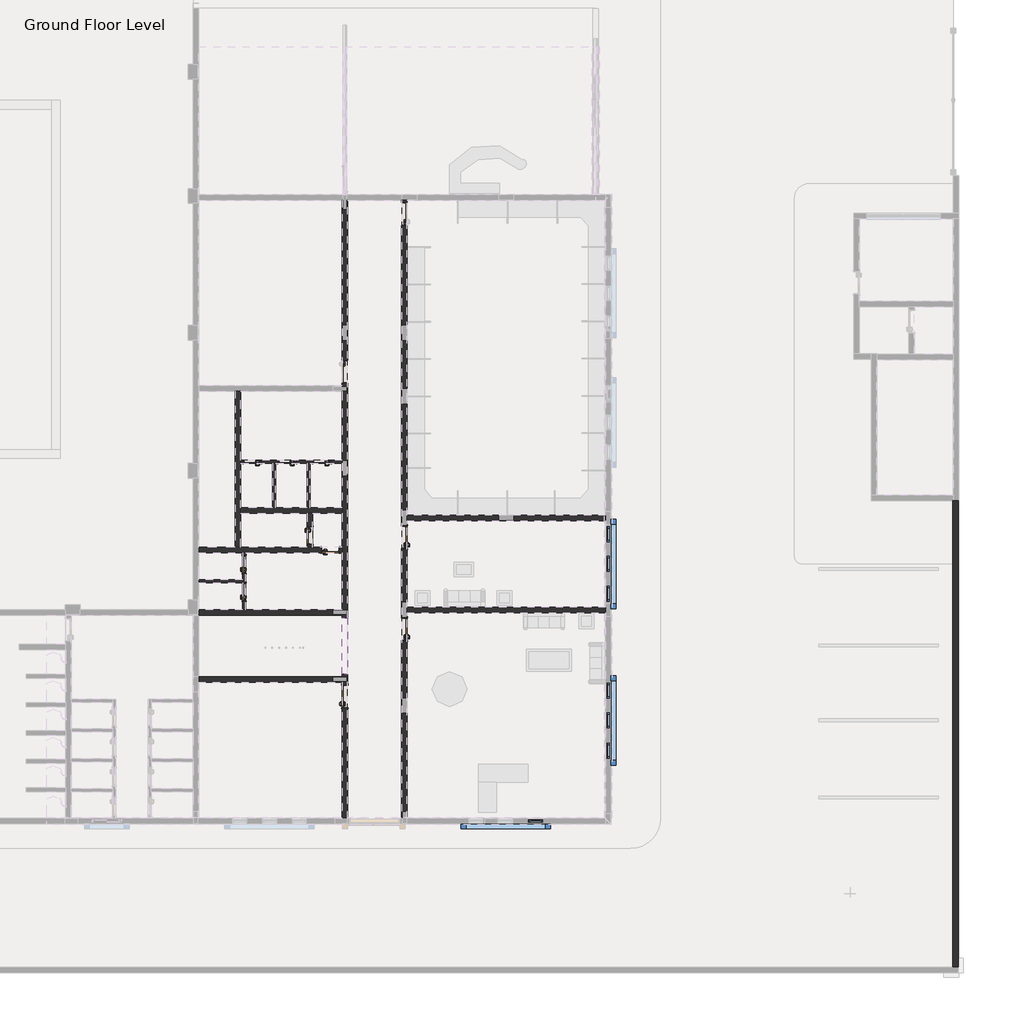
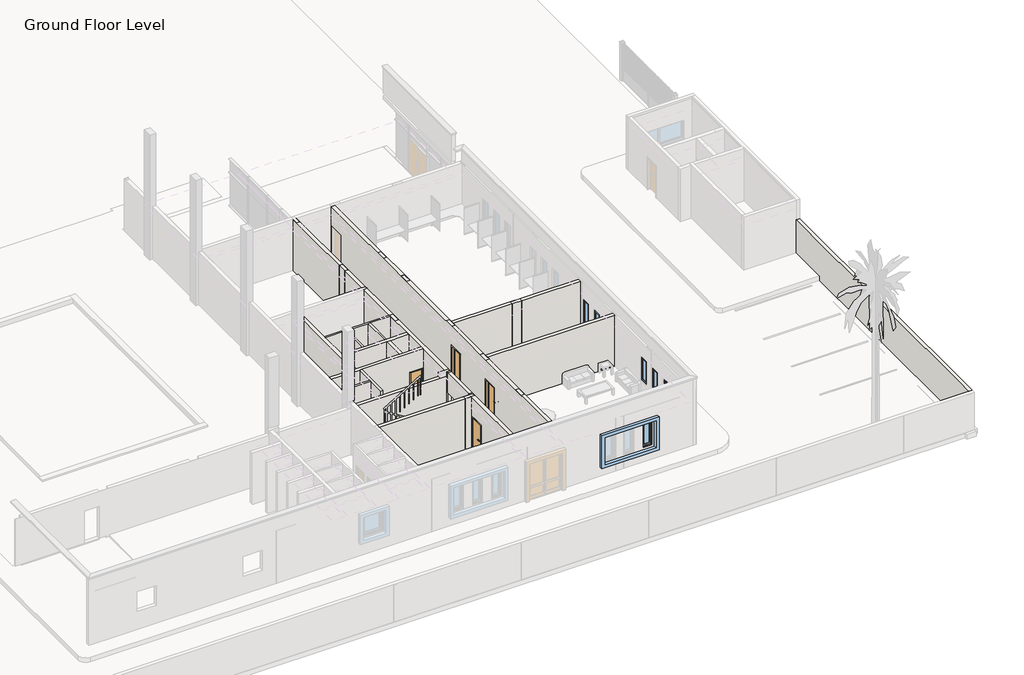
# One storey, part 4 of 23: 18 walls, 10 doors, 10 windows.
"""IFC4 building model written with IfcOpenShell, lengths in millimetres."""

from ifc_helpers import new_model, si_unit, frame, origin, place, context, project, spatial, polyline, outline, extrude, faceted_brep, transform, mapped, element, save
from components import int_single_flush_nz_700x_2100_d6161bae, int_single_flush_nz_700x_2100_87768231, int_single_flush_nz_900_x_2100_021ef152, int_single_flush_nz_900_x_2100_2a598139, window_batten_type_1_65f01d97, window_batten_type_1_102509b6, window_single_shutter_w3_b236610e

model = new_model("IFC4")

# Units and contexts
model_context = context("Model", 3, world=origin())
ifc_project = project(units=[si_unit("LENGTHUNIT", "METRE", prefix="MILLI")], contexts=[model_context])

# Site, building, storey
site = spatial("IfcSite", under=ifc_project)
building = spatial("IfcBuilding", under=site)
storey = spatial("IfcBuildingStorey", under=building, Name="Ground Floor Level", Elevation=900.0)

# Doors
placement = place(None, origin())
int_single_flush_nz_700x_2100_shape = int_single_flush_nz_700x_2100_d6161bae(model_context)
element("IfcDoor", 1, ObjectType="Int Single-Flush (NZ) : 700x 2100", at=placement, inside=storey, context=model_context, shape_type="MappedRepresentation", body=[
    mapped(int_single_flush_nz_700x_2100_shape, transform((1302.7672395, -30848.7846466, 1000.0), x_axis=(0.0, 1.0, 0.0), y_axis=(-1.0, 0.0, 0.0), z_axis=(0.0, 0.0, 1.0))),
])
element("IfcDoor", 2, ObjectType="Int Single-Flush (NZ) : 700x 2100", at=placement, inside=storey, context=model_context, shape_type="MappedRepresentation", body=[
    mapped(int_single_flush_nz_700x_2100_shape, transform((1302.7672395, -31958.7846466, 1000.0), x_axis=(0.0, 1.0, 0.0), y_axis=(-1.0, 0.0, 0.0), z_axis=(0.0, 0.0, 1.0))),
])
element("IfcDoor", 3, ObjectType="Int Single-Flush (NZ) : 700x 2100", at=placement, inside=storey, context=model_context, shape_type="MappedRepresentation", body=[
    mapped(int_single_flush_nz_700x_2100_shape, transform((1556.7672395, -26804.7846466, 1000.0), x_axis=(-1.0, 0.0, 0.0), y_axis=(0.0, -1.0, 0.0), z_axis=(0.0, 0.0, 1.0))),
])
element("IfcDoor", 4, ObjectType="Int Single-Flush (NZ) : 700x 2100", at=placement, inside=storey, context=model_context, shape_type="MappedRepresentation", body=[
    mapped(int_single_flush_nz_700x_2100_shape, transform((2956.7672395, -26804.7846466, 1000.0), x_axis=(-1.0, 0.0, 0.0), y_axis=(0.0, -1.0, 0.0), z_axis=(0.0, 0.0, 1.0))),
])
element("IfcDoor", 5, ObjectType="Int Single-Flush (NZ) : 700x 2100", at=placement, inside=storey, context=model_context, shape_type="MappedRepresentation", body=[
    mapped(int_single_flush_nz_700x_2100_shape, transform((4356.7672395, -26804.7846466, 1000.0), x_axis=(-1.0, 0.0, 0.0), y_axis=(0.0, -1.0, 0.0), z_axis=(0.0, 0.0, 1.0))),
])
int_single_flush_nz_700x_2100_2_shape = int_single_flush_nz_700x_2100_87768231(model_context)
element("IfcDoor", 6, ObjectType="Int Single-Flush (NZ) : 700x 2100", at=placement, inside=storey, context=model_context, shape_type="MappedRepresentation", body=[
    mapped(int_single_flush_nz_700x_2100_2_shape, transform((4848.7672394, -30344.7846466, 1000.0), x_axis=(1.0, 0.0, 0.0), y_axis=(0.0, 1.0, 0.0), z_axis=(0.0, 0.0, 1.0))),
])
element("IfcDoor", 7, ObjectType="Int Single-Flush (NZ) : 700x 2100", at=placement, inside=storey, context=model_context, shape_type="MappedRepresentation", body=[
    mapped(int_single_flush_nz_700x_2100_2_shape, transform((3952.7672395, -29840.7846466, 1000.0), x_axis=(0.0, -1.0, 0.0), y_axis=(1.0, 0.0, 0.0), z_axis=(0.0, 0.0, 1.0))),
])
int_single_flush_nz_900_x_2100_shape = int_single_flush_nz_900_x_2100_021ef152(model_context)
element("IfcDoor", 8, ObjectType="Int Single-Flush (NZ) : 900 x 2100", at=placement, inside=storey, context=model_context, shape_type="MappedRepresentation", body=[
    mapped(int_single_flush_nz_900_x_2100_shape, transform((5352.7672394, -36158.7846466, 1000.0), x_axis=(0.0, 1.0, 0.0), y_axis=(-1.0, 0.0, 0.0), z_axis=(0.0, 0.0, 1.0))),
])
int_single_flush_nz_900_x_2100_2_shape = int_single_flush_nz_900_x_2100_2a598139(model_context)
element("IfcDoor", 9, ObjectType="Int Single-Flush (NZ) : 900 x 2100", at=placement, inside=storey, context=model_context, shape_type="MappedRepresentation", body=[
    mapped(int_single_flush_nz_900_x_2100_2_shape, transform((7752.7672395, -29758.7846466, 1000.0), x_axis=(0.0, 1.0, 0.0), y_axis=(-1.0, 0.0, 0.0), z_axis=(0.0, 0.0, 1.0))),
])
element("IfcDoor", 10, ObjectType="Int Single-Flush (NZ) : 900 x 2100", at=placement, inside=storey, context=model_context, shape_type="MappedRepresentation", body=[
    mapped(int_single_flush_nz_900_x_2100_2_shape, transform((7752.7672395, -33458.7846466, 1000.0), x_axis=(0.0, 1.0, 0.0), y_axis=(-1.0, 0.0, 0.0), z_axis=(0.0, 0.0, 1.0))),
])

# Walls
element("IfcWall", 11, ObjectType="Exterior - Blockwork 200mm", at=placement, inside=storey, context=model_context, shape_type="SweptSolid", body=[
    extrude(outline(polyline([(29832.7672395, -47134.7846466), (29832.7672395, -28364.7846456), (30052.7672395, -28364.7846456), (30052.7672395, -47134.7846466), (29832.7672395, -47134.7846466)])), frame((0.0, 0.0, 600.0), z_axis=(0.0, 0.0, 1.0), x_axis=(1.0, 0.0, 0.0)), (0.0, 0.0, 1.0), 2500.0),
])
element("IfcWall", 12, ObjectType="Interior - Blockwork 200", at=placement, inside=storey, context=model_context, shape_type="Brep", body=[
    faceted_brep([(5242.7672394, -32954.7846466, 4400.0), (5242.7672394, -32954.7846466, 4100.0), (5242.7672394, -32954.7846466, 900.0), (5242.7672394, -32964.7846466, 900.0), (5242.7672394, -32964.7846466, 1000.0), (5242.7672394, -33074.7846466, 1000.0), (5242.7672394, -33074.7846466, 3100.0), (5242.7672394, -33074.7846466, 4400.0), (5242.7672394, -23754.7846466, 1000.0), (5242.7672394, -23754.7846466, 4400.0), (5242.7672394, -23744.7846466, 4400.0), (5242.7672394, -16264.7846466, 4400.0), (5242.7672394, -16264.7846466, 1000.0), (5242.7672394, -22706.7846466, 1000.0), (5242.7672394, -22706.7846466, 3119.0), (5242.7672394, -23644.7846466, 3119.0), (5242.7672394, -23644.7846466, 1000.0), (5242.7672394, -23744.7846466, 1000.0), (5242.7672394, -32754.7846466, 900.0), (5242.7672394, -32754.7846466, 4100.0), (5242.7672394, -32754.7846466, 4400.0), (5242.7672394, -30454.7846466, 4400.0), (5242.7672394, -30234.7846466, 4400.0), (5242.7672394, -28864.7846466, 4400.0), (5242.7672394, -28644.7846466, 4400.0), (5242.7672394, -26864.7846466, 4400.0), (5242.7672394, -26744.7846466, 4400.0), (5242.7672394, -23964.7846466, 4400.0), (5242.7672394, -23954.7846466, 4400.0), (5242.7672394, -23954.7846466, 1000.0), (5242.7672394, -23964.7846466, 1000.0), (5242.7672394, -30234.7846466, 1000.0), (5242.7672394, -30454.7846466, 1000.0), (5242.7672394, -32744.7846466, 1000.0), (5242.7672394, -32744.7846466, 900.0), (5462.7672394, -16264.7846466, 4400.0), (5462.7672394, -33074.7846466, 4400.0), (5462.7672394, -33074.7846466, 3100.0), (5462.7672394, -33074.7846466, 1000.0), (5462.7672394, -23644.7846466, 1000.0), (5462.7672394, -23644.7846466, 3119.0), (5462.7672394, -22706.7846466, 3119.0), (5462.7672394, -22706.7846466, 1000.0), (5462.7672394, -16264.7846466, 1000.0), (5452.7672395, -32954.7846466, 900.0), (5452.7672394, -32964.7846466, 900.0), (5452.7672395, -32754.7846466, 900.0), (5252.7672394, -32744.7846466, 900.0), (5252.7672394, -27354.7846466, 900.0), (5452.7672395, -27354.7846466, 900.0), (5452.7672395, -26754.7846466, 900.0), (5252.7672395, -26754.7846466, 900.0), (5252.7672394, -23954.7846466, 900.0), (5452.7672395, -23954.7846466, 900.0), (5452.7672395, -21304.7846466, 900.0), (5252.7672395, -21304.7846466, 900.0), (5252.7672394, -16654.7846466, 900.0), (5452.7672395, -16654.7846466, 900.0), (5252.7672395, -21904.7846466, 900.0), (5452.7672395, -21904.7846466, 900.0), (5452.7672394, -23754.7846466, 900.0), (5252.7672394, -23754.7846466, 900.0), (5452.7672395, -32954.7846466, 4400.0), (5452.7672395, -32954.7846466, 1000.0), (5452.7672394, -32754.7846466, 1000.0), (5452.7672395, -32754.7846466, 4400.0), (5452.7672395, -27354.7846466, 4400.0), (5452.7672395, -26754.7846466, 4400.0), (5452.7672395, -26754.7846466, 1000.0), (5452.7672395, -27354.7846466, 1000.0), (5252.7672394, -27354.7846466, 1000.0), (5252.7672395, -27354.7846466, 4400.0), (5252.7672395, -26754.7846466, 4400.0), (5252.7672395, -26754.7846466, 1000.0), (5452.7672395, -23754.7846466, 4400.0), (5252.7672394, -23754.7846466, 1000.0), (5452.7672394, -23754.7846466, 1000.0), (5452.7672395, -23954.7846466, 4400.0), (5452.7672395, -23954.7846466, 1000.0), (5252.7672394, -23954.7846466, 1000.0), (5452.7672395, -21904.7846466, 4400.0), (5452.7672395, -21304.7846466, 4400.0), (5452.7672395, -21304.7846466, 1000.0), (5452.7672395, -21904.7846466, 1000.0), (5252.7672394, -21904.7846466, 1000.0), (5252.7672395, -21904.7846466, 4400.0), (5252.7672395, -21304.7846466, 4400.0), (5252.7672395, -21304.7846466, 1000.0), (5452.7672395, -16654.7846466, 4400.0), (5452.7672395, -16264.7846466, 4400.0), (5452.7672395, -16264.7846466, 1000.0), (5452.7672395, -16654.7846466, 1000.0), (5252.7672394, -16654.7846466, 1000.0), (5252.7672395, -16654.7846466, 4400.0), (5252.7672395, -16264.7846466, 4400.0), (5252.7672395, -16264.7846466, 1000.0), (5252.7672394, -23644.7846466, 1000.0), (5252.7672394, -22706.7846466, 1000.0), (5452.7672394, -23644.7846466, 1000.0), (5452.7672394, -32964.7846466, 1000.0), (5452.7672394, -22706.7846466, 1000.0), (5252.7672394, -32744.7846466, 1000.0)], [[[0, 1, 2, 3, 4, 5, 6, 7]], [[8, 9, 10, 11, 12, 13, 14, 15, 16, 17]], [[18, 19, 20, 21, 22, 23, 24, 25, 26, 27, 28, 29, 30, 31, 32, 33, 34]], [[35, 36, 37, 38, 39, 40, 41, 42, 43]], [[2, 44, 45, 3]], [[46, 18, 34, 47, 48, 49]], [[50, 51, 52, 53]], [[54, 55, 56, 57]], [[58, 59, 60, 61]], [[36, 7, 6, 5, 38, 37]], [[2, 1, 0, 62, 63, 44]], [[20, 19, 18, 46, 64, 65]], [[62, 65, 64, 63]], [[66, 67, 68, 69]], [[49, 48, 70, 71, 66, 69]], [[72, 71, 70, 73]], [[51, 50, 68, 67, 72, 73]], [[74, 9, 8, 75, 61, 60, 76]], [[77, 74, 76, 78]], [[28, 77, 78, 53, 52, 79, 29]], [[80, 81, 82, 83]], [[59, 58, 84, 85, 80, 83]], [[86, 85, 84, 87]], [[55, 54, 82, 81, 86, 87]], [[88, 89, 90, 91]], [[57, 56, 92, 93, 88, 91]], [[94, 93, 92, 95]], [[11, 94, 95, 12]], [[89, 35, 43, 90]], [[36, 35, 89, 88, 93, 94, 11, 10, 9, 74, 77, 28, 27, 26, 25, 24, 23, 22, 21, 20, 65, 62, 0, 7], [67, 66, 71, 72], [81, 80, 85, 86]], [[8, 17, 16, 96, 75]], [[92, 87, 84, 97, 13, 12, 95]], [[58, 61, 75, 96, 97, 84]], [[87, 92, 56, 55]], [[64, 69, 68, 78, 76, 98, 39, 38, 5, 4, 99, 63]], [[82, 91, 90, 43, 42, 100, 83]], [[44, 63, 99, 45]], [[50, 53, 78, 68]], [[60, 59, 83, 100, 98, 76]], [[69, 64, 46, 49]], [[91, 82, 54, 57]], [[70, 101, 33, 32, 31, 30, 29, 79, 73]], [[73, 79, 52, 51]], [[47, 101, 70, 48]], [[101, 47, 34, 33]], [[99, 4, 3, 45]], [[16, 15, 40, 39, 98, 96]], [[14, 13, 97, 100, 42, 41]], [[97, 96, 98, 100]], [[14, 41, 40, 15]]]),
])
element("IfcWall", 13, ObjectType="Interior - Blockwork 200", at=placement, inside=storey, context=model_context, shape_type="Brep", body=[
    faceted_brep([(7862.7672395, -16264.7846466, 4400.0), (7862.7672395, -28944.7846466, 4400.0), (7862.7672395, -29164.7846466, 4400.0), (7862.7672395, -32644.7846466, 4400.0), (7862.7672395, -32864.7846466, 4400.0), (7862.7672395, -41144.7846466, 4400.0), (7862.7672395, -41144.7846466, 1000.0), (7862.7672395, -34002.7846466, 1000.0), (7862.7672395, -34002.7846466, 3119.0), (7862.7672395, -33064.7846466, 3119.0), (7862.7672395, -33064.7846466, 1000.0), (7862.7672395, -32864.7846466, 1000.0), (7862.7672395, -32854.7846466, 1000.0), (7862.7672395, -32854.7846466, 900.0), (7862.7672395, -32654.7846466, 900.0), (7862.7672395, -32654.7846466, 1000.0), (7862.7672395, -32644.7846466, 1000.0), (7862.7672395, -30302.7846466, 1000.0), (7862.7672395, -30302.7846466, 3119.0), (7862.7672395, -29364.7846466, 3119.0), (7862.7672395, -29364.7846466, 1000.0), (7862.7672395, -29164.7846466, 1000.0), (7862.7672395, -29154.7846466, 1000.0), (7862.7672395, -29154.7846466, 900.0), (7862.7672395, -28954.7846466, 900.0), (7862.7672395, -28954.7846466, 1000.0), (7862.7672395, -28944.7846466, 1000.0), (7862.7672395, -17302.7846466, 1000.0), (7862.7672395, -17302.7846466, 3119.0), (7862.7672395, -16364.7846466, 3119.0), (7862.7672395, -16364.7846466, 1000.0), (7862.7672395, -16264.7846466, 1000.0), (7642.7672395, -41144.7846466, 4400.0), (7642.7672395, -16264.7846466, 4400.0), (7642.7672395, -16264.7846466, 1000.0), (7642.7672395, -16364.7846466, 1000.0), (7642.7672395, -16364.7846466, 3119.0), (7642.7672395, -17302.7846466, 3119.0), (7642.7672395, -17302.7846466, 1000.0), (7642.7672395, -29364.7846466, 1000.0), (7642.7672395, -29364.7846466, 3119.0), (7642.7672395, -30302.7846466, 3119.0), (7642.7672395, -30302.7846466, 1000.0), (7642.7672395, -33064.7846466, 1000.0), (7642.7672395, -33064.7846466, 3119.0), (7642.7672395, -34002.7846466, 3119.0), (7642.7672395, -34002.7846466, 1000.0), (7642.7672395, -41144.7846466, 1000.0), (7852.7672395, -21304.7846466, 900.0), (7652.7672395, -21304.7846466, 900.0), (7652.7672395, -16264.7846466, 900.0), (7852.7672395, -16264.7846466, 900.0), (7652.7672395, -21904.7846466, 900.0), (7852.7672395, -21904.7846466, 900.0), (7852.7672395, -23854.2217867, 900.0), (7652.7672395, -23854.2217867, 900.0), (7652.7672395, -24454.2217867, 900.0), (7852.7672395, -24454.2217867, 900.0), (7852.7672395, -28754.7846466, 900.0), (7652.7672395, -28754.7846466, 900.0), (7652.7672395, -29354.7846466, 900.0), (7852.7672395, -29354.7846466, 900.0), (7852.7672395, -32454.7846466, 900.0), (7652.7672395, -32454.7846466, 900.0), (7652.7672395, -33054.7846466, 900.0), (7852.7672395, -33054.7846466, 900.0), (7852.7672395, -36304.7846466, 900.0), (7652.7672395, -36304.7846466, 900.0), (7652.7672395, -36904.7846466, 900.0), (7852.7672395, -36904.7846466, 900.0), (7852.7672395, -40854.7846466, 900.0), (7652.7672395, -40854.7846466, 900.0), (7852.7672395, -32854.7846466, 900.0), (7852.7672395, -32654.7846466, 900.0), (7852.7672395, -29154.7846466, 900.0), (7852.7672395, -28954.7846466, 900.0), (7852.7672395, -16264.7846466, 1000.0), (7652.7672395, -16264.7846466, 1000.0), (7852.7672395, -41144.7846466, 4400.0), (7852.7672395, -41144.7846466, 1000.0), (7652.7672395, -41144.7846466, 4400.0), (7652.7672395, -41144.7846466, 1000.0), (7852.7672395, -21904.7846466, 4400.0), (7852.7672395, -21304.7846466, 4400.0), (7852.7672395, -21304.7846466, 1000.0), (7852.7672395, -21904.7846466, 1000.0), (7652.7672395, -21904.7846466, 1000.0), (7652.7672395, -21904.7846466, 4400.0), (7652.7672395, -21304.7846466, 4400.0), (7652.7672395, -21304.7846466, 1000.0), (7652.7672395, -23854.2217867, 4400.0), (7652.7672395, -24454.2217867, 4400.0), (7652.7672395, -24454.2217867, 1000.0), (7652.7672395, -23854.2217867, 1000.0), (7852.7672395, -23854.2217867, 1000.0), (7852.7672395, -23854.2217867, 4400.0), (7852.7672395, -24454.2217867, 4400.0), (7852.7672395, -24454.2217867, 1000.0), (7852.7672395, -29354.7846466, 4400.0), (7852.7672395, -28754.7846466, 4400.0), (7852.7672395, -28754.7846466, 1000.0), (7852.7672395, -28954.7846466, 1000.0), (7852.7672395, -29154.7846466, 1000.0), (7852.7672395, -29354.7846466, 1000.0), (7652.7672395, -29354.7846466, 1000.0), (7652.7672395, -29354.7846466, 4400.0), (7652.7672395, -28754.7846466, 4400.0), (7652.7672395, -28754.7846466, 1000.0), (7652.7672395, -32454.7846466, 4400.0), (7652.7672395, -33054.7846466, 4400.0), (7652.7672395, -33054.7846466, 1000.0), (7652.7672395, -32454.7846466, 1000.0), (7852.7672395, -32454.7846466, 1000.0), (7852.7672395, -32454.7846466, 4400.0), (7852.7672395, -33054.7846466, 4400.0), (7852.7672395, -32654.7846466, 1000.0), (7852.7672395, -32854.7846466, 1000.0), (7852.7672395, -33054.7846466, 1000.0), (7852.7672395, -36904.7846466, 4400.0), (7852.7672395, -36304.7846466, 4400.0), (7852.7672395, -36304.7846466, 1000.0), (7852.7672395, -36904.7846466, 1000.0), (7652.7672395, -36904.7846466, 1000.0), (7652.7672395, -36904.7846466, 4400.0), (7652.7672395, -36304.7846466, 4400.0), (7652.7672395, -36304.7846466, 1000.0), (7652.7672395, -40854.7846466, 4400.0), (7652.7672395, -40854.7846466, 1000.0), (7852.7672395, -40854.7846466, 1000.0), (7852.7672395, -40854.7846466, 4400.0), (7852.7672395, -34002.7846466, 1000.0), (7852.7672395, -33064.7846466, 1000.0), (7852.7672395, -30302.7846466, 1000.0), (7852.7672395, -29364.7846466, 1000.0), (7852.7672395, -16364.7846466, 1000.0), (7852.7672395, -17302.7846466, 1000.0), (7652.7672395, -29364.7846466, 1000.0), (7652.7672395, -17302.7846466, 1000.0), (7652.7672395, -34002.7846466, 1000.0), (7652.7672395, -16364.7846466, 1000.0), (7652.7672395, -30302.7846466, 1000.0), (7652.7672395, -33064.7846466, 1000.0)], [[[0, 1, 2, 3, 4, 5, 6, 7, 8, 9, 10, 11, 12, 13, 14, 15, 16, 17, 18, 19, 20, 21, 22, 23, 24, 25, 26, 27, 28, 29, 30, 31]], [[32, 33, 34, 35, 36, 37, 38, 39, 40, 41, 42, 43, 44, 45, 46, 47]], [[48, 49, 50, 51]], [[52, 53, 54, 55]], [[56, 57, 58, 59]], [[60, 61, 62, 63]], [[64, 65, 66, 67]], [[68, 69, 70, 71]], [[13, 72, 73, 14]], [[23, 74, 75, 24]], [[33, 0, 31, 76, 51, 50, 77, 34]], [[5, 78, 79, 6]], [[80, 32, 47, 81]], [[82, 83, 84, 85]], [[53, 52, 86, 87, 82, 85]], [[88, 87, 86, 89]], [[49, 48, 84, 83, 88, 89]], [[90, 91, 92, 93]], [[55, 54, 94, 95, 90, 93]], [[96, 95, 94, 97]], [[57, 56, 92, 91, 96, 97]], [[98, 99, 100, 101, 75, 74, 102, 103]], [[61, 60, 104, 105, 98, 103]], [[106, 105, 104, 107]], [[59, 58, 100, 99, 106, 107]], [[108, 109, 110, 111]], [[63, 62, 112, 113, 108, 111]], [[114, 113, 112, 115, 73, 72, 116, 117]], [[65, 64, 110, 109, 114, 117]], [[118, 119, 120, 121]], [[69, 68, 122, 123, 118, 121]], [[124, 123, 122, 125]], [[67, 66, 120, 119, 124, 125]], [[126, 80, 81, 127]], [[71, 70, 128, 129, 126, 127]], [[78, 129, 128, 79]], [[5, 4, 3, 2, 1, 0, 33, 32, 80, 126, 129, 78], [83, 82, 87, 88], [91, 90, 95, 96], [99, 98, 105, 106], [109, 108, 113, 114], [119, 118, 123, 124]], [[128, 121, 120, 130, 7, 6, 79]], [[116, 12, 11, 10, 131, 117]], [[66, 65, 117, 131, 130, 120]], [[121, 128, 70, 69]], [[12, 116, 72, 13]], [[15, 115, 112, 132, 17, 16]], [[102, 22, 21, 20, 133, 103]], [[115, 15, 14, 73]], [[62, 61, 103, 133, 132, 112]], [[22, 102, 74, 23]], [[31, 30, 134, 76]], [[94, 85, 84, 135, 27, 26, 25, 101, 100, 97]], [[101, 25, 24, 75]], [[48, 51, 76, 134, 135, 84]], [[85, 94, 54, 53]], [[97, 100, 58, 57]], [[86, 93, 92, 107, 104, 136, 39, 38, 137, 89]], [[122, 127, 81, 47, 46, 138, 125]], [[77, 139, 35, 34]], [[140, 111, 110, 141, 43, 42]], [[93, 86, 52, 55]], [[107, 92, 56, 59]], [[127, 122, 68, 71]], [[89, 137, 139, 77, 50, 49]], [[136, 104, 60, 63, 111, 140]], [[141, 110, 64, 67, 125, 138]], [[30, 29, 36, 35, 139, 134]], [[28, 27, 135, 137, 38, 37]], [[135, 134, 139, 137]], [[20, 19, 40, 39, 136, 133]], [[18, 17, 132, 140, 42, 41]], [[132, 133, 136, 140]], [[10, 9, 44, 43, 141, 131]], [[8, 7, 130, 138, 46, 45]], [[130, 131, 141, 138]], [[28, 37, 36, 29]], [[18, 41, 40, 19]], [[8, 45, 44, 9]]]),
])
element("IfcWall", 14, ObjectType="Interior - Blockwork 200", at=placement, inside=storey, context=model_context, shape_type="Brep", body=[
    faceted_brep([(942.7672395, -23964.7846466, 900.0), (942.7672395, -30234.7846466, 900.0), (942.7672395, -30234.7846466, 4400.0), (942.7672395, -23964.7846466, 4400.0), (1162.7672395, -23964.7846466, 4400.0), (1162.7672395, -26744.7846466, 4400.0), (1162.7672395, -26864.7846466, 4400.0), (1162.7672395, -28644.7846466, 4400.0), (1162.7672395, -28864.7846466, 4400.0), (1162.7672395, -30234.7846466, 4400.0), (1162.7672395, -30234.7846466, 1000.0), (1162.7672395, -23964.7846466, 1000.0), (1152.7672395, -23964.7846466, 900.0), (1152.7672395, -30234.7846466, 900.0), (1152.7672395, -23964.7846466, 1000.0), (1152.7672395, -30234.7846466, 1000.0)], [[[0, 1, 2, 3]], [[4, 5, 6, 7, 8, 9, 10, 11]], [[1, 0, 12, 13]], [[0, 3, 4, 11, 14, 12]], [[2, 1, 13, 15, 10, 9]], [[3, 2, 9, 8, 7, 6, 5, 4]], [[15, 14, 11, 10]], [[14, 15, 13, 12]]]),
])
element("IfcWall", 15, ObjectType="Interior - Blockwork 200", at=placement, inside=storey, context=model_context, shape_type="Brep", body=[
    faceted_brep([(5242.7672394, -30454.7846466, 4400.0), (1362.7672395, -30454.7846466, 4400.0), (1242.7672395, -30454.7846466, 4400.0), (-537.2327605, -30454.7846466, 4400.0), (-537.2327605, -30454.7846466, 1000.0), (4404.7672394, -30454.7846466, 1000.0), (4404.7672394, -30454.7846466, 3119.0), (5142.7672394, -30454.7846466, 3119.0), (5142.7672394, -30454.7846466, 1000.0), (5242.7672394, -30454.7846466, 1000.0), (-537.2327605, -30234.7846466, 900.0), (-537.2327605, -30234.7846466, 4400.0), (942.7672395, -30234.7846466, 4400.0), (1162.7672395, -30234.7846466, 4400.0), (3842.7672395, -30234.7846466, 4400.0), (4062.7672395, -30234.7846466, 4400.0), (5242.7672394, -30234.7846466, 4400.0), (5242.7672394, -30234.7846466, 1000.0), (5142.7672394, -30234.7846466, 1000.0), (5142.7672394, -30234.7846466, 3119.0), (4404.7672394, -30234.7846466, 3119.0), (4404.7672394, -30234.7846466, 1000.0), (1162.7672395, -30234.7846466, 1000.0), (1152.7672395, -30234.7846466, 1000.0), (1152.7672395, -30234.7846466, 900.0), (942.7672395, -30234.7846466, 900.0), (1152.7672395, -30444.7846466, 900.0), (-537.2327605, -30444.7846466, 900.0), (-537.2327605, -30444.7846466, 1000.0), (1152.7672395, -30444.7846466, 1000.0)], [[[0, 1, 2, 3, 4, 5, 6, 7, 8, 9]], [[10, 11, 12, 13, 14, 15, 16, 17, 18, 19, 20, 21, 22, 23, 24, 25]], [[10, 25, 24, 26, 27]], [[16, 0, 9, 17]], [[11, 10, 27, 28, 4, 3]], [[3, 2, 1, 0, 16, 15, 14, 13, 12, 11]], [[9, 8, 18, 17]], [[28, 29, 23, 22, 21, 5, 4]], [[26, 29, 28, 27]], [[29, 26, 24, 23]], [[7, 19, 18, 8]], [[19, 7, 6, 20]], [[20, 6, 5, 21]]]),
])
element("IfcWall", 16, ObjectType="Interior - Blockwork 200", at=placement, inside=storey, context=model_context, shape_type="Brep", body=[
    faceted_brep([(1162.7672395, -28864.7846466, 900.0), (3842.7672395, -28864.7846466, 900.0), (4062.7672395, -28864.7846466, 900.0), (5242.7672394, -28864.7846466, 900.0), (5242.7672394, -28864.7846466, 4400.0), (4062.7672395, -28864.7846466, 4400.0), (3842.7672395, -28864.7846466, 4400.0), (1162.7672395, -28864.7846466, 4400.0), (1162.7672395, -28644.7846466, 900.0), (1162.7672395, -28644.7846466, 4400.0), (2442.7672395, -28644.7846466, 4400.0), (2562.7672395, -28644.7846466, 4400.0), (3842.7672395, -28644.7846466, 4400.0), (3962.7672395, -28644.7846466, 4400.0), (5242.7672394, -28644.7846466, 4400.0), (5242.7672394, -28644.7846466, 900.0), (3962.7672395, -28644.7846466, 900.0), (3842.7672395, -28644.7846466, 900.0), (2562.7672395, -28644.7846466, 900.0), (2442.7672395, -28644.7846466, 900.0)], [[[0, 1, 2, 3, 4, 5, 6, 7]], [[8, 9, 10, 11, 12, 13, 14, 15, 16, 17, 18, 19]], [[3, 2, 1, 0, 8, 19, 18, 17, 16, 15]], [[4, 3, 15, 14]], [[0, 7, 9, 8]], [[7, 6, 5, 4, 14, 13, 12, 11, 10, 9]]]),
])
element("IfcWall", 17, ObjectType="Interior - Blockwork 200", at=placement, inside=storey, context=model_context, shape_type="SweptSolid", body=[
    extrude(outline(polyline([(-28864.7846466, 900.0), (-30234.7846466, 900.0), (-30234.7846466, 4400.0), (-28864.7846466, 4400.0), (-28864.7846466, 900.0)]), holes=[polyline([(-30134.7846466, 3119.0), (-30134.7846466, 1000.0), (-29396.7846466, 1000.0), (-29396.7846466, 3119.0), (-30134.7846466, 3119.0)])]), frame((3842.7672395, 0.0, 0.0), z_axis=(1.0, 0.0, 0.0), x_axis=(0.0, 1.0, 0.0)), (0.0, 0.0, 1.0), 220.0),
])
element("IfcWall", 18, ObjectType="Interior - Blockwork 200", at=placement, inside=storey, context=model_context, shape_type="Brep", body=[
    faceted_brep([(15843.0482736, -29164.7846466, 4400.0), (7862.7672395, -29164.7846466, 4400.0), (7862.7672395, -29164.7846466, 1000.0), (15843.0482736, -29164.7846466, 1000.0), (7862.7672395, -28944.7846466, 4400.0), (15843.0482736, -28944.7846466, 4400.0), (15843.0482736, -28944.7846466, 1000.0), (7862.7672395, -28944.7846466, 1000.0), (12152.7672395, -29154.7846464, 900.0), (12152.7672395, -28954.7846464, 900.0), (15843.0482736, -28954.7846466, 900.0), (15843.0482736, -29154.7846466, 900.0), (11552.7672395, -28954.7846464, 900.0), (11552.7672395, -29154.7846464, 900.0), (7862.7672395, -29154.7846466, 900.0), (7862.7672395, -28954.7846466, 900.0), (7862.7672395, -28954.7846466, 1000.0), (7862.7672395, -29154.7846466, 1000.0), (15843.0482736, -29154.7846466, 1000.0), (15843.0482736, -28954.7846466, 1000.0), (12152.7672395, -28954.7846464, 4400.0), (11552.7672395, -28954.7846464, 4400.0), (11552.7672395, -28954.7846464, 1000.0), (12152.7672395, -28954.7846464, 1000.0), (12152.7672395, -29154.7846466, 1000.0), (12152.7672395, -29154.7846464, 4400.0), (11552.7672395, -29154.7846464, 4400.0), (11552.7672395, -29154.7846464, 1000.0)], [[[0, 1, 2, 3]], [[4, 5, 6, 7]], [[8, 9, 10, 11]], [[12, 13, 14, 15]], [[1, 4, 7, 16, 15, 14, 17, 2]], [[5, 0, 3, 18, 11, 10, 19, 6]], [[20, 21, 22, 23]], [[9, 8, 24, 25, 20, 23]], [[26, 25, 24, 27]], [[13, 12, 22, 21, 26, 27]], [[1, 0, 5, 4], [21, 20, 25, 26]], [[17, 27, 24, 18, 3, 2]], [[27, 17, 14, 13]], [[18, 24, 8, 11]], [[22, 16, 7, 6, 19, 23]], [[16, 22, 12, 15]], [[23, 19, 10, 9]]]),
])
element("IfcWall", 19, ObjectType="Interior - Blockwork 200", at=placement, inside=storey, context=model_context, shape_type="SweptSolid", body=[
    extrude(outline(polyline([(-32864.7846466, 4400.0), (-32644.7846466, 4400.0), (-32644.7846466, 1000.0), (-32654.7846466, 1000.0), (-32654.7846466, 900.0), (-32854.7846466, 900.0), (-32854.7846466, 1000.0), (-32864.7846466, 1000.0), (-32864.7846466, 4400.0)])), frame((7862.7672395, 0.0, 0.0), z_axis=(1.0, 0.0, 0.0), x_axis=(0.0, 1.0, 0.0)), (0.0, 0.0, 1.0), 7980.2810341),
])
element("IfcWall", 20, ObjectType="Interior - Blockwork 200", at=placement, inside=storey, context=model_context, shape_type="Brep", body=[
    faceted_brep([(5242.7672394, -35664.7846466, 4400.0), (-537.2327605, -35664.7846466, 4400.0), (-537.2327605, -35664.7846466, 1000.0), (5242.7672394, -35664.7846466, 1000.0), (-537.2327605, -35444.7846466, 4400.0), (-527.2327605, -35444.7846466, 4400.0), (2961.7442506, -35444.7846466, 4400.0), (5242.7672394, -35444.7846466, 4400.0), (5242.7672394, -35444.7846466, 1000.0), (-537.2327605, -35444.7846466, 1000.0), (4852.7672395, -35454.7846466, 900.0), (4852.7672395, -35654.7846466, 900.0), (-537.2327605, -35654.7846466, 900.0), (-537.2327605, -35454.7846466, 900.0), (5242.7672394, -35654.7846466, 4400.0), (5242.7672394, -35654.7846466, 1000.0), (5242.7672394, -35454.7846466, 4400.0), (5242.7672394, -35454.7846466, 1000.0), (-537.2327605, -35454.7846466, 1000.0), (-537.2327605, -35654.7846466, 1000.0), (4852.7672395, -35454.7846466, 4400.0), (4852.7672395, -35454.7846466, 1000.0), (4852.7672395, -35654.7846466, 4400.0), (4852.7672395, -35654.7846466, 1000.0)], [[[0, 1, 2, 3]], [[4, 5, 6, 7, 8, 9]], [[10, 11, 12, 13]], [[14, 0, 3, 15]], [[7, 16, 17, 8]], [[1, 4, 9, 18, 13, 12, 19, 2]], [[16, 20, 21, 17]], [[22, 14, 15, 23]], [[11, 10, 21, 20, 22, 23]], [[4, 1, 0, 14, 22, 20, 16, 7, 6, 5]], [[19, 23, 15, 3, 2]], [[23, 19, 12, 11]], [[21, 18, 9, 8, 17]], [[18, 21, 10, 13]]]),
])
element("IfcWall", 21, ObjectType="Interior - Blockwork 200", at=placement, inside=storey, context=model_context, shape_type="Brep", body=[
    faceted_brep([(-537.2327605, -32964.7846466, 900.0), (5242.7672394, -32964.7846466, 900.0), (5242.7672394, -32964.7846466, 1000.0), (5242.7672394, -32964.7846466, 4100.0), (-537.2327605, -32964.7846466, 4100.0), (5242.7672394, -32744.7846466, 900.0), (1362.7672395, -32744.7846466, 900.0), (1242.7672395, -32744.7846466, 900.0), (-537.2327605, -32744.7846466, 900.0), (-537.2327605, -32744.7846466, 4100.0), (5242.7672394, -32744.7846466, 4100.0), (5242.7672394, -32744.7846466, 1000.0), (5242.7672394, -32754.7846466, 900.0), (4852.7672395, -32754.7846466, 900.0), (4852.7672395, -32954.7846466, 900.0), (5242.7672394, -32954.7846466, 900.0), (5242.7672394, -32954.7846466, 4100.0), (4852.7672395, -32954.7846466, 4100.0), (4852.7672395, -32754.7846466, 4100.0), (5242.7672394, -32754.7846466, 4100.0)], [[[0, 1, 2, 3, 4]], [[5, 6, 7, 8, 9, 10, 11]], [[1, 0, 8, 7, 6, 5, 12, 13, 14, 15]], [[4, 3, 16, 17, 18, 19, 10, 9]], [[5, 11, 10, 19, 12]], [[3, 2, 1, 15, 16]], [[14, 17, 16, 15]], [[17, 14, 13, 18]], [[18, 13, 12, 19]], [[8, 0, 4, 9]]]),
])
element("IfcWall", 22, ObjectType="Interior - Blockwork 200", at=placement, inside=storey, context=model_context, shape_type="Brep", body=[
    faceted_brep([(5242.7672394, -35764.7846466, 1000.0), (5242.7672394, -35764.7846466, 3119.0), (5242.7672394, -36702.7846466, 3119.0), (5242.7672394, -36702.7846466, 1000.0), (5242.7672394, -41144.7846466, 1000.0), (5242.7672394, -41144.7846466, 4400.0), (5242.7672394, -35664.7846466, 4400.0), (5242.7672394, -35654.7846466, 4400.0), (5242.7672394, -35654.7846466, 1000.0), (5242.7672394, -35664.7846466, 1000.0), (5242.7672394, -35454.7846466, 4400.0), (5242.7672394, -35444.7846466, 4400.0), (5242.7672394, -35354.7846466, 4400.0), (5242.7672394, -35354.7846466, 3100.0), (5242.7672394, -35354.7846466, 1000.0), (5242.7672394, -35444.7846466, 1000.0), (5242.7672394, -35454.7846466, 1000.0), (5462.7672394, -35354.7846466, 4400.0), (5462.7672394, -41144.7846466, 4400.0), (5462.7672394, -41144.7846466, 1000.0), (5462.7672394, -36702.7846466, 1000.0), (5462.7672394, -36702.7846466, 3119.0), (5462.7672394, -35764.7846466, 3119.0), (5462.7672394, -35764.7846466, 1000.0), (5462.7672394, -35354.7846466, 1000.0), (5462.7672394, -35354.7846466, 3100.0), (5252.7672394, -35654.7846466, 900.0), (5452.7672395, -35654.7846466, 900.0), (5452.7672394, -41144.7846466, 900.0), (5252.7672394, -41144.7846466, 900.0), (5252.7672394, -41144.7846466, 1000.0), (5452.7672394, -41144.7846466, 1000.0), (5452.7672395, -35454.7846466, 4400.0), (5452.7672395, -35654.7846466, 4400.0), (5252.7672394, -35764.7846466, 1000.0), (5452.7672394, -35764.7846466, 1000.0), (5452.7672394, -36702.7846466, 1000.0), (5252.7672394, -36702.7846466, 1000.0), (5452.7672394, -35454.7846466, 1000.0), (5452.7672395, -35654.7846466, 1000.0), (5252.7672394, -35654.7846466, 1000.0)], [[[0, 1, 2, 3, 4, 5, 6, 7, 8, 9]], [[10, 11, 12, 13, 14, 15, 16]], [[17, 18, 19, 20, 21, 22, 23, 24, 25]], [[26, 27, 28, 29]], [[12, 17, 25, 24, 14, 13]], [[18, 5, 4, 30, 29, 28, 31, 19]], [[5, 18, 17, 12, 11, 10, 32, 33, 7, 6]], [[1, 0, 34, 35, 23, 22]], [[3, 2, 21, 20, 36, 37]], [[34, 37, 36, 35]], [[32, 10, 16, 38]], [[33, 32, 38, 39]], [[7, 33, 39, 27, 26, 40, 8]], [[4, 3, 37, 30]], [[40, 34, 0, 9, 8]], [[34, 40, 26, 29, 30, 37]], [[24, 23, 35, 39, 38, 16, 15, 14]], [[31, 36, 20, 19]], [[36, 31, 28, 27, 39, 35]], [[21, 2, 1, 22]]]),
])
element("IfcWall", 23, ObjectType="Interior - Blockwork 200", at=placement, inside=storey, context=model_context, shape_type="SweptSolid", body=[
    extrude(outline(polyline([(5242.7672394, -35354.7846466), (5242.7672394, -33074.7846466), (5462.7672394, -33074.7846466), (5462.7672394, -35354.7846466), (5242.7672394, -35354.7846466)])), frame((0.0, 0.0, 3100.0), z_axis=(0.0, 0.0, 1.0), x_axis=(1.0, 0.0, 0.0)), (0.0, 0.0, 1.0), 1300.0),
])
element("IfcWall", 24, ObjectType="Interior -Blockwork 100mm", at=placement, inside=storey, context=model_context, shape_type="Brep", body=[
    faceted_brep([(1362.7672395, -32744.7846466, 900.0), (1362.7672395, -30454.7846466, 900.0), (1362.7672395, -30454.7846466, 4400.0), (1362.7672395, -32744.7846466, 4400.0), (1362.7672395, -30554.7846466, 3119.0), (1362.7672395, -30554.7846466, 1000.0), (1362.7672395, -31292.7846466, 1000.0), (1362.7672395, -31292.7846466, 3119.0), (1362.7672395, -31664.7846466, 3119.0), (1362.7672395, -31664.7846466, 1000.0), (1362.7672395, -32402.7846466, 1000.0), (1362.7672395, -32402.7846466, 3119.0), (1242.7672395, -30454.7846466, 900.0), (1242.7672395, -31544.7846466, 900.0), (1242.7672395, -31664.7846466, 900.0), (1242.7672395, -32744.7846466, 900.0), (1242.7672395, -32744.7846466, 4400.0), (1242.7672395, -31664.7846466, 4400.0), (1242.7672395, -31544.7846466, 4400.0), (1242.7672395, -30454.7846466, 4400.0), (1242.7672395, -30554.7846466, 1000.0), (1242.7672395, -30554.7846466, 3119.0), (1242.7672395, -31292.7846466, 3119.0), (1242.7672395, -31292.7846466, 1000.0), (1242.7672395, -31664.7846466, 1000.0), (1242.7672395, -31664.7846466, 3119.0), (1242.7672395, -32402.7846466, 3119.0), (1242.7672395, -32402.7846466, 1000.0)], [[[0, 1, 2, 3], [4, 5, 6, 7], [8, 9, 10, 11]], [[12, 13, 14, 15, 16, 17, 18, 19], [20, 21, 22, 23], [24, 25, 26, 27]], [[1, 0, 15, 14, 13, 12]], [[2, 1, 12, 19]], [[3, 2, 19, 18, 17, 16]], [[0, 3, 16, 15]], [[20, 5, 4, 21]], [[21, 4, 7, 22]], [[6, 23, 22, 7]], [[5, 20, 23, 6]], [[24, 9, 8, 25]], [[25, 8, 11, 26]], [[26, 11, 10, 27]], [[9, 24, 27, 10]]]),
])
element("IfcWall", 25, ObjectType="Interior -Blockwork 100mm", at=placement, inside=storey, context=model_context, shape_type="Brep", body=[
    faceted_brep([(1242.7672395, -31544.7846466, 900.0), (-537.2327605, -31544.7846466, 900.0), (-537.2327605, -31544.7846466, 4400.0), (1242.7672395, -31544.7846466, 4400.0), (1242.7672395, -31664.7846466, 900.0), (1242.7672395, -31664.7846466, 1000.0), (1242.7672395, -31664.7846466, 3119.0), (1242.7672395, -31664.7846466, 4400.0), (-537.2327605, -31664.7846466, 4400.0), (-537.2327605, -31664.7846466, 900.0)], [[[0, 1, 2, 3]], [[4, 5, 6, 7, 8, 9]], [[1, 0, 4, 9]], [[2, 1, 9, 8]], [[0, 3, 7, 6, 5, 4]], [[3, 2, 8, 7]]]),
])
element("IfcWall", 26, ObjectType="Interior -Blockwork 100mm", at=placement, inside=storey, context=model_context, shape_type="Brep", body=[
    faceted_brep([(1162.7672395, -26864.7846466, 900.0), (2442.7672395, -26864.7846466, 900.0), (2562.7672395, -26864.7846466, 900.0), (3842.7672395, -26864.7846466, 900.0), (3962.7672395, -26864.7846466, 900.0), (5242.7672394, -26864.7846466, 900.0), (5242.7672394, -26864.7846466, 4400.0), (3962.7672395, -26864.7846466, 4400.0), (3842.7672395, -26864.7846466, 4400.0), (2562.7672395, -26864.7846466, 4400.0), (2442.7672395, -26864.7846466, 4400.0), (1162.7672395, -26864.7846466, 4400.0), (1262.7672395, -26864.7846466, 1000.0), (1262.7672395, -26864.7846466, 3119.0), (2000.7672395, -26864.7846466, 3119.0), (2000.7672395, -26864.7846466, 1000.0), (2662.7672395, -26864.7846466, 1000.0), (2662.7672395, -26864.7846466, 3119.0), (3400.7672395, -26864.7846466, 3119.0), (3400.7672395, -26864.7846466, 1000.0), (4062.7672395, -26864.7846466, 1000.0), (4062.7672395, -26864.7846466, 3119.0), (4800.7672395, -26864.7846466, 3119.0), (4800.7672395, -26864.7846466, 1000.0), (5242.7672394, -26744.7846466, 900.0), (1162.7672395, -26744.7846466, 900.0), (1162.7672395, -26744.7846466, 4400.0), (5242.7672394, -26744.7846466, 4400.0), (1262.7672395, -26744.7846466, 3119.0), (1262.7672395, -26744.7846466, 1000.0), (2000.7672395, -26744.7846466, 1000.0), (2000.7672395, -26744.7846466, 3119.0), (2662.7672395, -26744.7846466, 3119.0), (2662.7672395, -26744.7846466, 1000.0), (3400.7672395, -26744.7846466, 1000.0), (3400.7672395, -26744.7846466, 3119.0), (4062.7672395, -26744.7846466, 3119.0), (4062.7672395, -26744.7846466, 1000.0), (4800.7672395, -26744.7846466, 1000.0), (4800.7672395, -26744.7846466, 3119.0)], [[[0, 1, 2, 3, 4, 5, 6, 7, 8, 9, 10, 11], [12, 13, 14, 15], [16, 17, 18, 19], [20, 21, 22, 23]], [[24, 25, 26, 27], [28, 29, 30, 31], [32, 33, 34, 35], [36, 37, 38, 39]], [[5, 4, 3, 2, 1, 0, 25, 24]], [[0, 11, 26, 25]], [[6, 5, 24, 27]], [[11, 10, 9, 8, 7, 6, 27, 26]], [[12, 29, 28, 13]], [[13, 28, 31, 14]], [[30, 15, 14, 31]], [[29, 12, 15, 30]], [[16, 33, 32, 17]], [[17, 32, 35, 18]], [[34, 19, 18, 35]], [[33, 16, 19, 34]], [[20, 37, 36, 21]], [[21, 36, 39, 22]], [[22, 39, 38, 23]], [[37, 20, 23, 38]]]),
])
element("IfcWall", 27, ObjectType="Interior -Blockwork 100mm", at=placement, inside=storey, context=model_context, shape_type="SweptSolid", body=[
    extrude(outline(polyline([(2562.7672395, -26864.7846466), (2562.7672395, -28644.7846466), (2442.7672395, -28644.7846466), (2442.7672395, -26864.7846466), (2562.7672395, -26864.7846466)])), frame((0.0, 0.0, 900.0), z_axis=(0.0, 0.0, 1.0), x_axis=(1.0, 0.0, 0.0)), (0.0, 0.0, 1.0), 3500.0),
])
element("IfcWall", 28, ObjectType="Interior -Blockwork 100mm", at=placement, inside=storey, context=model_context, shape_type="SweptSolid", body=[
    extrude(outline(polyline([(3962.7672395, -26864.7846466), (3962.7672395, -28644.7846466), (3842.7672395, -28644.7846466), (3842.7672395, -26864.7846466), (3962.7672395, -26864.7846466)])), frame((0.0, 0.0, 900.0), z_axis=(0.0, 0.0, 1.0), x_axis=(1.0, 0.0, 0.0)), (0.0, 0.0, 1.0), 3500.0),
])

# Windows
window_batten_type_1_shape = window_batten_type_1_65f01d97(model_context)
element("IfcWindow", 29, ObjectType="Window Batten : Type 1", at=placement, inside=storey, context=model_context, shape_type="MappedRepresentation", body=[
    mapped(window_batten_type_1_shape, transform((15953.0482736, -37339.8033233, 991.1515798), x_axis=(0.0, 1.0, 0.0), y_axis=(-1.0, 0.0, 0.0), z_axis=(0.0, 0.0, 1.0))),
])
element("IfcWindow", 30, ObjectType="Window Batten : Type 1", at=placement, inside=storey, context=model_context, shape_type="MappedRepresentation", body=[
    mapped(window_batten_type_1_shape, transform((15953.0482736, -31038.6537548, 991.1515798), x_axis=(0.0, 1.0, 0.0), y_axis=(-1.0, 0.0, 0.0), z_axis=(0.0, 0.0, 1.0))),
])
window_batten_type_1_2_shape = window_batten_type_1_102509b6(model_context)
element("IfcWindow", 31, ObjectType="Window Batten : Type 1", at=placement, inside=storey, context=model_context, shape_type="MappedRepresentation", body=[
    mapped(window_batten_type_1_2_shape, transform((11698.3067944, -41254.7846466, 988.2597672), x_axis=(1.0, 0.0, 0.0), y_axis=(0.0, 1.0, 0.0), z_axis=(0.0, 0.0, 1.0))),
])
window_single_shutter_w3_shape = window_single_shutter_w3_b236610e(model_context)
element("IfcWindow", 32, ObjectType="Window- Single Shutter : W3", at=placement, inside=storey, context=model_context, shape_type="MappedRepresentation", body=[
    mapped(window_single_shutter_w3_shape, transform((15948.0482736, -29704.7846466, 1000.0), x_axis=(0.0, -1.0, 0.0), y_axis=(1.0, 0.0, 0.0), z_axis=(0.0, 0.0, 1.0))),
])
element("IfcWindow", 33, ObjectType="Window- Single Shutter : W3", at=placement, inside=storey, context=model_context, shape_type="MappedRepresentation", body=[
    mapped(window_single_shutter_w3_shape, transform((15948.0482736, -30904.7846466, 1000.0), x_axis=(0.0, -1.0, 0.0), y_axis=(1.0, 0.0, 0.0), z_axis=(0.0, 0.0, 1.0))),
])
element("IfcWindow", 34, ObjectType="Window- Single Shutter : W3", at=placement, inside=storey, context=model_context, shape_type="MappedRepresentation", body=[
    mapped(window_single_shutter_w3_shape, transform((15948.0482736, -32104.7846466, 1000.0), x_axis=(0.0, -1.0, 0.0), y_axis=(1.0, 0.0, 0.0), z_axis=(0.0, 0.0, 1.0))),
])
element("IfcWindow", 35, ObjectType="Window- Single Shutter : W3", at=placement, inside=storey, context=model_context, shape_type="MappedRepresentation", body=[
    mapped(window_single_shutter_w3_shape, transform((15948.0482736, -36004.7846466, 1000.0), x_axis=(0.0, -1.0, 0.0), y_axis=(1.0, 0.0, 0.0), z_axis=(0.0, 0.0, 1.0))),
])
element("IfcWindow", 36, ObjectType="Window- Single Shutter : W3", at=placement, inside=storey, context=model_context, shape_type="MappedRepresentation", body=[
    mapped(window_single_shutter_w3_shape, transform((15948.0482736, -37204.7846466, 1000.0), x_axis=(0.0, -1.0, 0.0), y_axis=(1.0, 0.0, 0.0), z_axis=(0.0, 0.0, 1.0))),
])
element("IfcWindow", 37, ObjectType="Window- Single Shutter : W3", at=placement, inside=storey, context=model_context, shape_type="MappedRepresentation", body=[
    mapped(window_single_shutter_w3_shape, transform((15948.0482736, -38424.7846466, 1000.0), x_axis=(0.0, -1.0, 0.0), y_axis=(1.0, 0.0, 0.0), z_axis=(0.0, 0.0, 1.0))),
])
element("IfcWindow", 38, ObjectType="Window- Single Shutter : W3", at=placement, inside=storey, context=model_context, shape_type="MappedRepresentation", body=[
    mapped(window_single_shutter_w3_shape, transform((13023.7672395, -41249.7846466, 1000.0000012), x_axis=(-1.0, 0.0, 0.0), y_axis=(0.0, -1.0, 0.0), z_axis=(0.0, 0.0, 1.0))),
])

save(model, "model.ifc")
